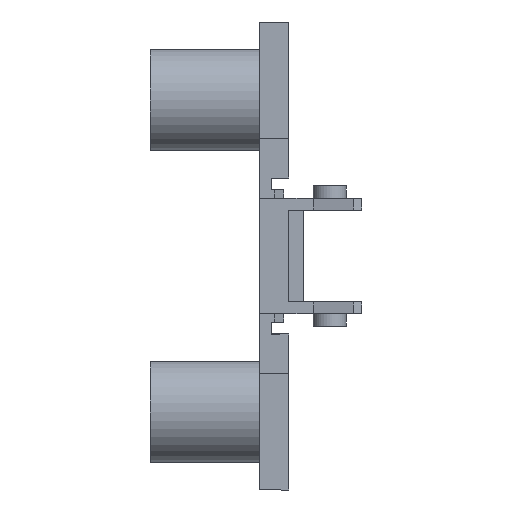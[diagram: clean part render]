
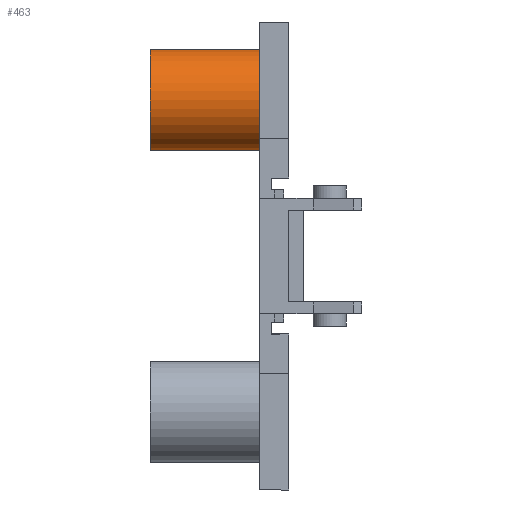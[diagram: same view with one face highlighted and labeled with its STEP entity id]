
A CAD part, front view. The second image highlights one B-rep face of the part: STEP entity #463.
In plain terms, the highlighted cylindrical face has radius 5.2 mm (diameter 10.4 mm), a partial arc.
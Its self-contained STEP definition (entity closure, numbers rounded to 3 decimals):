
#76 = LINE ( 'NONE', #1639, #77 ) ;
#77 = VECTOR ( 'NONE', #1640, 1000. ) ;
#126 = CIRCLE ( 'NONE', #554, 5.2 ) ;
#149 = LINE ( 'NONE', #1721, #150 ) ;
#150 = VECTOR ( 'NONE', #1722, 1000. ) ;
#164 = CIRCLE ( 'NONE', #534, 5.2 ) ;
#463 = ADVANCED_FACE ( 'NONE', ( #3317 ), #3319, .T. ) ;
#534 = AXIS2_PLACEMENT_3D ( 'NONE', #1733, #1734, #1735 ) ;
#554 = AXIS2_PLACEMENT_3D ( 'NONE', #1690, #1692, #1693 ) ;
#819 = EDGE_CURVE ( 'NONE', #2004, #2142, #76, .T. ) ;
#850 = EDGE_CURVE ( 'NONE', #2142, #1969, #126, .T. ) ;
#865 = EDGE_CURVE ( 'NONE', #1860, #1969, #149, .T. ) ;
#871 = EDGE_CURVE ( 'NONE', #2004, #1860, #164, .T. ) ;
#939 = AXIS2_PLACEMENT_3D ( 'NONE', #1127, #1116, #1119 ) ;
#1116 = DIRECTION ( 'NONE',  ( 1., 0., 0. ) ) ;
#1119 = DIRECTION ( 'NONE',  ( 0., 0., -1. ) ) ;
#1127 = CARTESIAN_POINT ( 'NONE',  ( -11.2, 0., 16. ) ) ;
#1639 = CARTESIAN_POINT ( 'NONE',  ( -11.2, 0., 10.8 ) ) ;
#1640 = DIRECTION ( 'NONE',  ( 1., 0., 0. ) ) ;
#1690 = CARTESIAN_POINT ( 'NONE',  ( 0., 0., 16. ) ) ;
#1692 = DIRECTION ( 'NONE',  ( -1., 0., 0. ) ) ;
#1693 = DIRECTION ( 'NONE',  ( 0., 0., -1. ) ) ;
#1721 = CARTESIAN_POINT ( 'NONE',  ( -11.2, 0., 21.2 ) ) ;
#1722 = DIRECTION ( 'NONE',  ( 1., 0., 0. ) ) ;
#1733 = CARTESIAN_POINT ( 'NONE',  ( -11.2, 0., 16. ) ) ;
#1734 = DIRECTION ( 'NONE',  ( -1., 0., 0. ) ) ;
#1735 = DIRECTION ( 'NONE',  ( 0., 0., 1. ) ) ;
#1860 = VERTEX_POINT ( 'NONE', #2180 ) ;
#1969 = VERTEX_POINT ( 'NONE', #2215 ) ;
#2004 = VERTEX_POINT ( 'NONE', #2229 ) ;
#2142 = VERTEX_POINT ( 'NONE', #2273 ) ;
#2180 = CARTESIAN_POINT ( 'NONE',  ( -11.2, 0., 21.2 ) ) ;
#2215 = CARTESIAN_POINT ( 'NONE',  ( 0., 0., 21.2 ) ) ;
#2229 = CARTESIAN_POINT ( 'NONE',  ( -11.2, 0., 10.8 ) ) ;
#2273 = CARTESIAN_POINT ( 'NONE',  ( 0., 0., 10.8 ) ) ;
#2910 = ORIENTED_EDGE ( 'NONE', *, *, #865, .F. ) ;
#2911 = ORIENTED_EDGE ( 'NONE', *, *, #871, .F. ) ;
#2912 = ORIENTED_EDGE ( 'NONE', *, *, #819, .T. ) ;
#2917 = ORIENTED_EDGE ( 'NONE', *, *, #850, .T. ) ;
#3191 = EDGE_LOOP ( 'NONE', ( #2910, #2911, #2912, #2917 ) ) ;
#3317 = FACE_OUTER_BOUND ( 'NONE', #3191, .T. ) ;
#3319 = CYLINDRICAL_SURFACE ( 'NONE', #939, 5.2 ) ;
